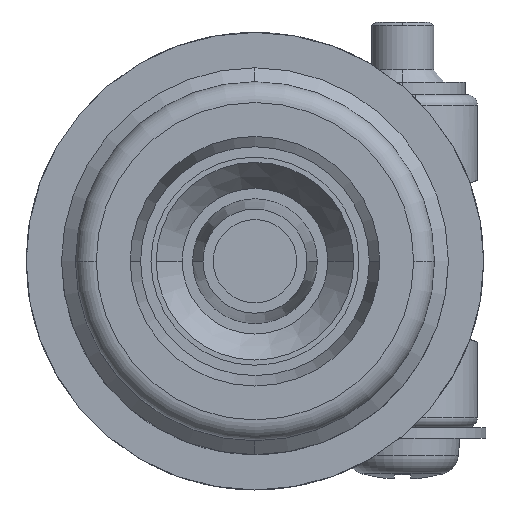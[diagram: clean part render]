
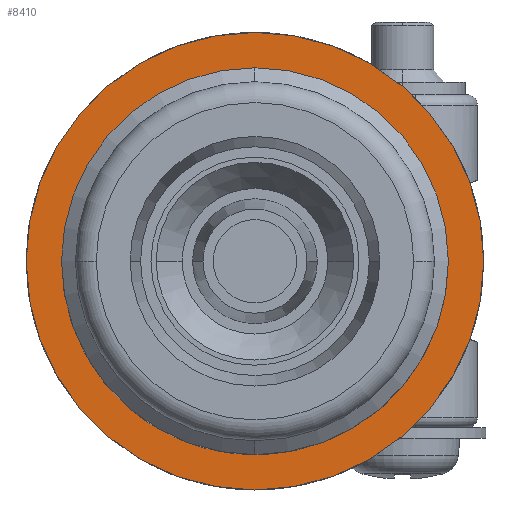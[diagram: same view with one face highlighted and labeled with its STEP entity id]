
A CAD part, left-side view. The second image highlights one B-rep face of the part: STEP entity #8410.
In plain terms, the highlighted planar face has unit normal (-1, 0, 0).
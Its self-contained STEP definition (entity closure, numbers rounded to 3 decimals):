
#7130=CARTESIAN_POINT('',(16.273,66.643,
0.));
#7140=VERTEX_POINT('',#7130);
#7980=CARTESIAN_POINT('',(16.273,88.643,0.));
#7990=VERTEX_POINT('',#7980);
#8020=CARTESIAN_POINT('',(16.273,77.643,0.));
#8030=DIRECTION('',(1.,0.,0.));
#8040=DIRECTION('',(0.,1.,0.));
#8050=AXIS2_PLACEMENT_3D('',#8020,#8030,#8040);
#8060=CIRCLE('',#8050,11.);
#8070=EDGE_CURVE('',#7140,#7990,#8060,.T.);
#8120=CARTESIAN_POINT('',(16.273,87.543,0.));
#8130=DIRECTION('',(-1.,0.,0.));
#8140=DIRECTION('',(0.,1.,0.));
#8150=AXIS2_PLACEMENT_3D('',#8120,#8130,#8140);
#8160=PLANE('',#8150);
#8170=CARTESIAN_POINT('',(16.273,77.643,
0.));
#8180=DIRECTION('',(1.,0.,0.));
#8190=DIRECTION('',(0.,0.,-1.));
#8200=AXIS2_PLACEMENT_3D('',#8170,#8180,#8190);
#8210=CIRCLE('',#8200,9.3);
#8220=CARTESIAN_POINT('',(16.273,86.943,
0.));
#8230=VERTEX_POINT('',#8220);
#8240=CARTESIAN_POINT('',(16.273,68.343,0.));
#8250=VERTEX_POINT('',#8240);
#8260=EDGE_CURVE('',#8230,#8250,#8210,.T.);
#8270=ORIENTED_EDGE('',*,*,#8260,.T.);
#8280=CARTESIAN_POINT('',(16.273,74.15,
-8.619));
#8290=VERTEX_POINT('',#8280);
#8300=EDGE_CURVE('',#8290,#8230,#8210,.T.);
#8310=ORIENTED_EDGE('',*,*,#8300,.T.);
#8320=EDGE_CURVE('',#8250,#8290,#8210,.T.);
#8330=ORIENTED_EDGE('',*,*,#8320,.T.);
#8340=EDGE_LOOP('',(#8330,#8310,#8270));
#8350=FACE_BOUND('',#8340,.T.);
#8360=EDGE_CURVE('',#7990,#7140,#8060,.T.);
#8370=ORIENTED_EDGE('',*,*,#8360,.F.);
#8380=ORIENTED_EDGE('',*,*,#8070,.F.);
#8390=EDGE_LOOP('',(#8380,#8370));
#8400=FACE_OUTER_BOUND('',#8390,.T.);
#8410=ADVANCED_FACE('',(#8350,#8400),#8160,.T.);
